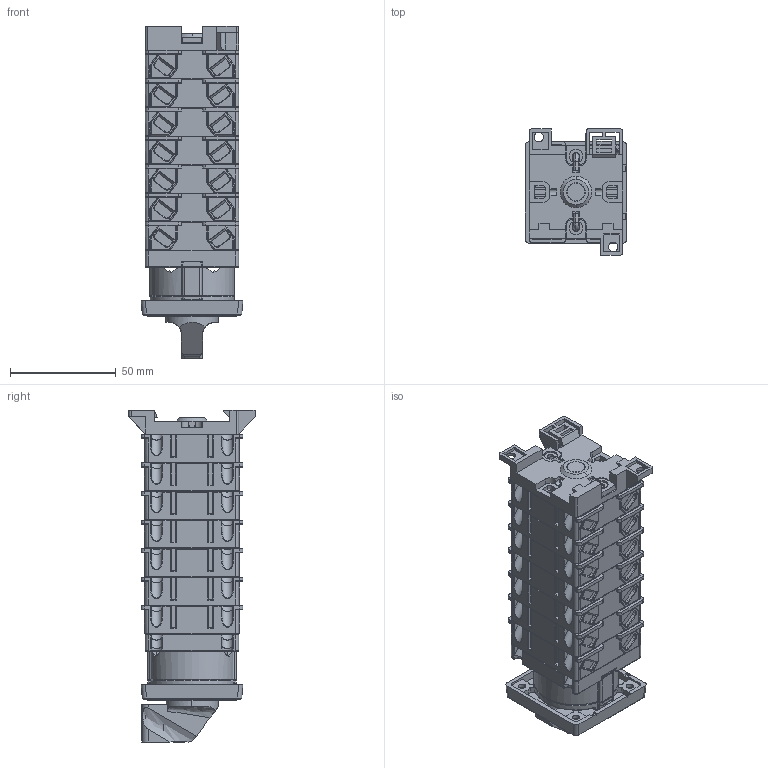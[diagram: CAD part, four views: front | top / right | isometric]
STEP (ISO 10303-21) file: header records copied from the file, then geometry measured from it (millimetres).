
FILE_DESCRIPTION (( 'STEP AP214' ), '1' );
FILE_NAME ('Ïåðåêëþ÷àòåëü 4G10-XXXX-OU-R012,R014,S24 7ê.STEP', '2022-11-25T11:52:14', ( '' ), ( '' ), 'SwSTEP 2.0', 'SolidWorks 2018', '' );
FILE_SCHEMA (( 'AUTOMOTIVE_DESIGN' ));
Length unit declared in the file: millimetre
Products named in the file (1): Ïåðåêëþ÷àòåëü 4G10-XXXX-OU-R012,R014,S24 7ê
Bounding box: 48 x 59.6 x 156.9 mm (x, y, z)
Volume: 234570.4 mm3; surface area: 100437.3 mm2
Topology: 26 solids, 82 shells, 6096 faces, 15667 edges, 9923 vertices
Faces by surface type: plane 3460, cylinder 1948, torus 312, cone 233, bspline 97, sphere 46
Entity records: 261740 total; most frequent: CARTESIAN_POINT 47951, ORIENTED_EDGE 31228, DIRECTION 29846, EDGE_CURVE 15614, LINE 10576, VECTOR 10576, VERTEX_POINT 9907, AXIS2_PLACEMENT_3D 9635
